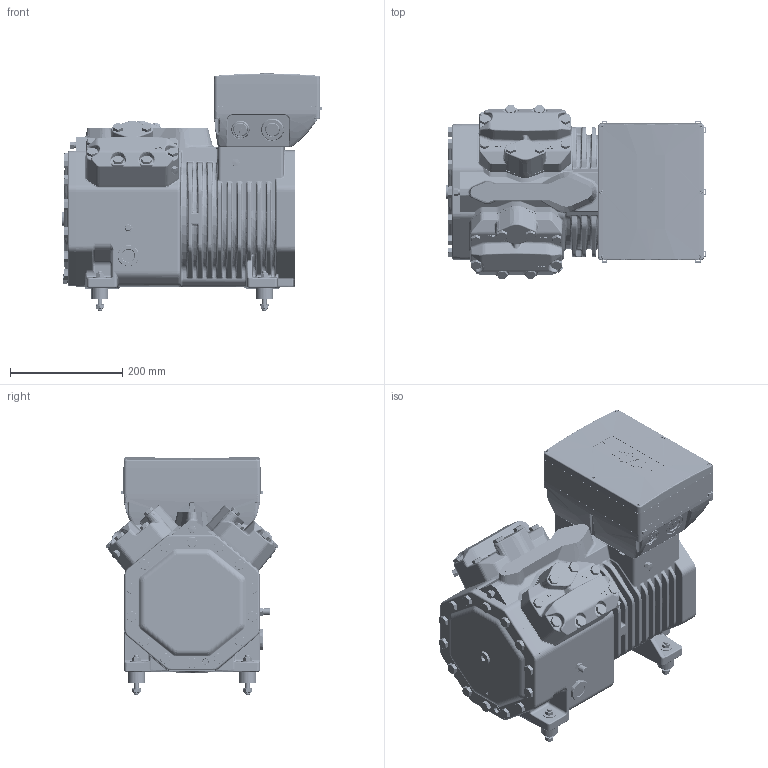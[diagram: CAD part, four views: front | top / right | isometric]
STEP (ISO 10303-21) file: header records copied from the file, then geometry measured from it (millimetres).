
FILE_DESCRIPTION(/* description */ (''),/* implementation_level */ '2;1');
FILE_NAME(/* name */ '4FES-4EES-4DES-4CES-STANDARD.stp',/* time_stamp */ '2023-12-11T15:45:38+01:00',/* author */ (''),/* organization */ (''),/* preprocessor_version */ 'ST-DEVELOPER v19.3',/* originating_system */ 'SIEMENS PLM Software NX2212.3001',/* authorisation */ '');
FILE_SCHEMA (('AUTOMOTIVE_DESIGN { 1 0 10303 214 3 1 1 1 }'));
Products named in the file (7): DAMPER-ELEMENT-CE3; ELECTRICAL-TERMINAL-BOX-C3; TERMINAL-BOX-CE3-CM-RC-02; BEARING-CAP-W-SEALING-SCREW; CYL-HEAD-AIR-CE3-STANDARD; CE3-BASIC-BODY; 4FES-4EES-4DES-4CES-STANDARD
Assembly tree (7 placements, depth 2):
  4FES-4EES-4DES-4CES-STANDARD
    CE3-BASIC-BODY
    CYL-HEAD-AIR-CE3-STANDARD  x2
    BEARING-CAP-W-SEALING-SCREW
    TERMINAL-BOX-CE3-CM-RC-02
    ELECTRICAL-TERMINAL-BOX-C3
    DAMPER-ELEMENT-CE3
Bounding box: 464.08 x 309.26 x 422.18 mm (x, y, z)
Volume: 29952724.8 mm3; surface area: 1196733.2 mm2
Topology: 10 solids, 29 shells, 5929 faces, 14646 edges, 9051 vertices
Faces by surface type: plane 2013, bspline 1836, cylinder 1111, cone 566, torus 192, extrusion 137, sphere 74
Full cylindrical faces by diameter (mm): 3 x4, 4 x6, 5 x4, 5.795 x4, 6 x2, 6.8 x2, 8 x16, 8.4 x4, 8.5 x13, 9.732 x4, 10 x18, 10.287 x1, 10.29 x4, 10.5 x2, 11 x6, 12 x1, 13 x4, 14.63 x4, 16 x1, 17 x2, 23.9 x1, 24 x4, 25 x2, 30 x4, 36 x4, 40 x1, 189.9 x1
Entity records: 199017 total; most frequent: CARTESIAN_POINT 79072, ORIENTED_EDGE 25714, DIRECTION 19662, EDGE_CURVE 12857, VERTEX_POINT 8167, AXIS2_PLACEMENT_3D 7538, EDGE_LOOP 6108, ADVANCED_FACE 5415
